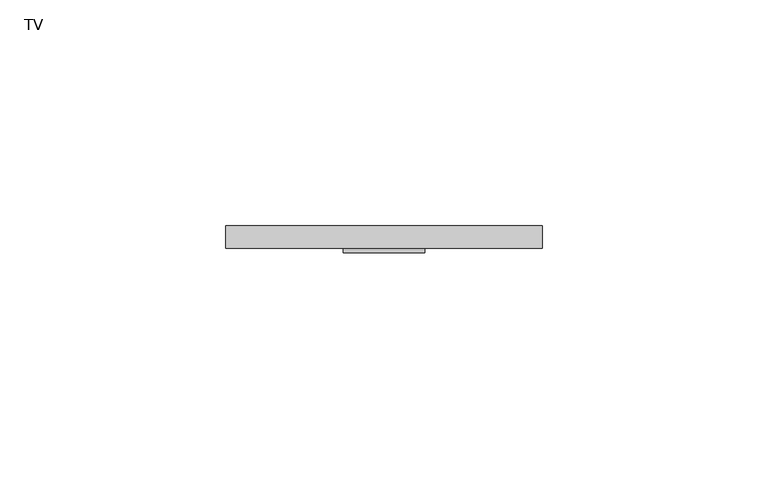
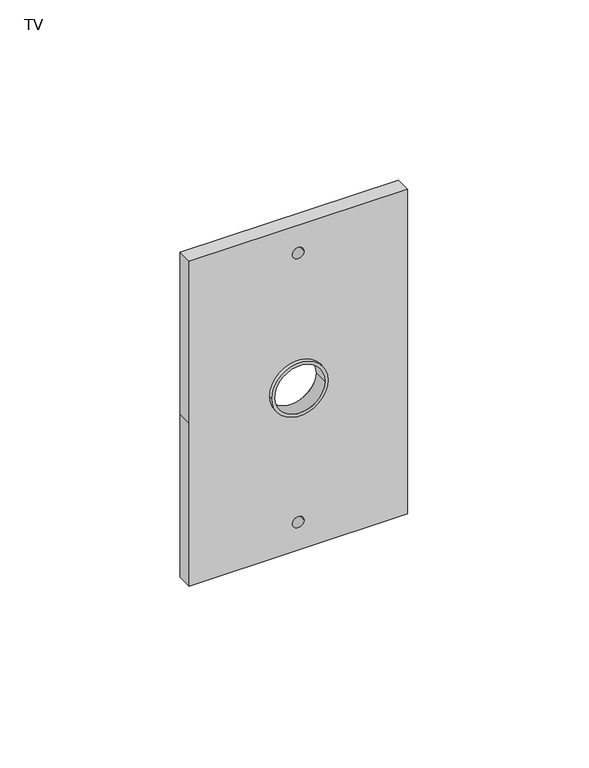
"""IFC4 building model written with IfcOpenShell, lengths in millimetres: proxy geometry, TV : Contacto-comunicaciones."""

from ifc_helpers import new_model, si_unit, point, frame, frame_2d, origin, place, context, project, spatial, polyline, circle_curve, trimmed, segment, composite_curve, outline, extrude, source, transform, mapped, element, save


def tv_d5a8baa8(model_context):
    return source(origin(), model_context, "Body", "SweptSolid", [
        extrude(outline(composite_curve([segment(trimmed(circle_curve(frame_2d((350.0, 125.0)), 9.0), [point((350.0, 116.0))], [point((350.0, 134.0))], False, "CARTESIAN"), True, "CONTINUOUS"), segment(trimmed(circle_curve(frame_2d((350.0, 125.0)), 9.0), [point((350.0, 134.0))], [point((350.0, 116.0))], False, "CARTESIAN"), True, "CONTINUOUS")], self_intersect=False), holes=[composite_curve([segment(trimmed(circle_curve(frame_2d((350.0, 125.0)), 8.0), [point((350.0, 133.0))], [point((350.0, 117.0))], True, "CARTESIAN"), True, "CONTINUOUS"), segment(trimmed(circle_curve(frame_2d((350.0, 125.0)), 8.0), [point((350.0, 117.0))], [point((350.0, 133.0))], True, "CARTESIAN"), True, "CONTINUOUS")], self_intersect=False)]), frame((0.0, -70.9684395, 0.0), z_axis=(0.0, 1.0, 0.0), x_axis=(0.0, 0.0, 1.0)), (0.0, 0.0, 1.0), 4.7658788),
        extrude(outline(polyline([(405.0, 160.0), (405.0, 90.0), (350.0, 90.0), (295.0, 90.0), (295.0, 160.0), (405.0, 160.0)]), holes=[composite_curve([segment(trimmed(circle_curve(frame_2d((395.5814465, 125.0)), 1.8475425), [point((395.5814465, 123.1524575))], [point((395.5814465, 126.8475425))], True, "CARTESIAN"), True, "CONTINUOUS"), segment(trimmed(circle_curve(frame_2d((395.5814465, 125.0)), 1.8475425), [point((395.5814465, 126.8475425))], [point((395.5814465, 123.1524575))], True, "CARTESIAN"), True, "CONTINUOUS")], self_intersect=False), composite_curve([segment(trimmed(circle_curve(frame_2d((304.4185535, 125.0)), 1.8475425), [point((304.4185535, 123.1524575))], [point((304.4185535, 126.8475425))], True, "CARTESIAN"), True, "CONTINUOUS"), segment(trimmed(circle_curve(frame_2d((304.4185535, 125.0)), 1.8475425), [point((304.4185535, 126.8475425))], [point((304.4185535, 123.1524575))], True, "CARTESIAN"), True, "CONTINUOUS")], self_intersect=False), composite_curve([segment(trimmed(circle_curve(frame_2d((350.0, 125.0)), 9.0), [point((350.0, 116.0))], [point((350.0, 134.0))], True, "CARTESIAN"), True, "CONTINUOUS"), segment(trimmed(circle_curve(frame_2d((350.0, 125.0)), 9.0), [point((350.0, 134.0))], [point((350.0, 116.0))], True, "CARTESIAN"), True, "CONTINUOUS")], self_intersect=False)]), frame((0.0, -70.0, 0.0), z_axis=(0.0, 1.0, 0.0), x_axis=(0.0, 0.0, 1.0)), (0.0, 0.0, 1.0), 5.0),
    ])


if __name__ == "__main__":
    model = new_model("IFC4")
    model_context = context("Model", 3, world=origin())
    ifc_project = project(units=[si_unit("LENGTHUNIT", "METRE", prefix="MILLI")], contexts=[model_context])
    site = spatial("IfcSite", under=ifc_project)
    building = spatial("IfcBuilding", under=site)
    placement = place(None, origin())
    tv_shape = tv_d5a8baa8(model_context)
    element("IfcBuildingElementProxy", 1, Name="TV : Contacto-comunicaciones", ObjectType="TV : Contacto-comunicaciones", at=placement, inside=building, context=model_context, shape_type="MappedRepresentation", body=[
        mapped(tv_shape, transform((0.0, 0.0, 0.0), x_axis=(1.0, 0.0, 0.0), y_axis=(0.0, 1.0, 0.0), z_axis=(0.0, 0.0, 1.0))),
    ])
    save(model, "model.ifc")
